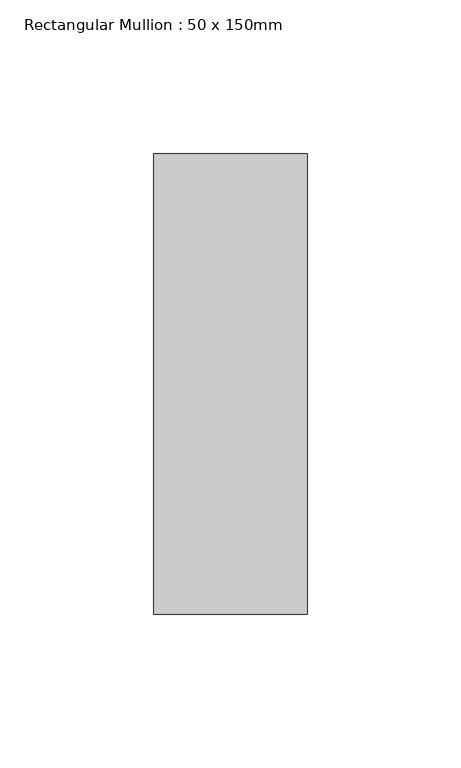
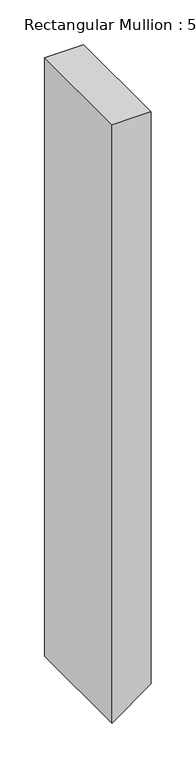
"""IFC4 building model written with IfcOpenShell, lengths in millimetres: member geometry, Rectangular Mullion : 50 x 150mm."""

from ifc_helpers import new_model, si_unit, frame, origin, place, context, project, spatial, polyline, outline, extrude, source, transform, mapped, element, save


def rectangular_mullion_50_x_150mm_f7c1941f(model_context):
    return source(origin(), model_context, "Body", "SweptSolid", [
        extrude(outline(polyline([(0.0, 25.0), (0.0, -25.0), (-811.8896239, -25.0), (-776.1092317, 25.0), (0.0, 25.0)])), frame((0.0, -75.0, 0.0), z_axis=(0.0, 1.0, 0.0), x_axis=(0.0, 0.0, 1.0)), (0.0, 0.0, 1.0), 150.0),
    ])


if __name__ == "__main__":
    model = new_model("IFC4")
    model_context = context("Model", 3, world=origin())
    ifc_project = project(units=[si_unit("LENGTHUNIT", "METRE", prefix="MILLI")], contexts=[model_context])
    site = spatial("IfcSite", under=ifc_project)
    building = spatial("IfcBuilding", under=site)
    placement = place(None, origin())
    rectangular_mullion_50_x_150mm_shape = rectangular_mullion_50_x_150mm_f7c1941f(model_context)
    element("IfcMember", 1, ObjectType="Rectangular Mullion : 50 x 150mm", at=placement, inside=building, context=model_context, shape_type="MappedRepresentation", body=[
        mapped(rectangular_mullion_50_x_150mm_shape, transform((0.0, 0.0, 0.0), x_axis=(1.0, 0.0, 0.0), y_axis=(0.0, 1.0, 0.0), z_axis=(0.0, 0.0, 1.0))),
    ])
    save(model, "model.ifc")
